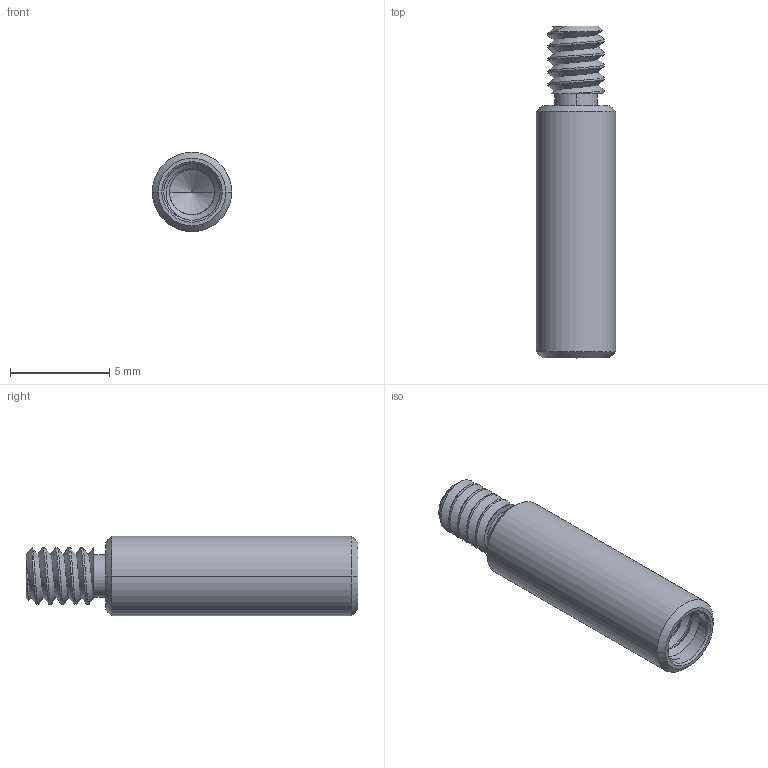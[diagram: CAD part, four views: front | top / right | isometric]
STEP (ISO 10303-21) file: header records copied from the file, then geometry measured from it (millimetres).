
FILE_DESCRIPTION((''),'2;1');
FILE_NAME('SR05','2022-11-15T',('daizh'),(''),'CREO PARAMETRIC BY PTC INC, 2018360','CREO PARAMETRIC BY PTC INC, 2018360','');
FILE_SCHEMA(('CONFIG_CONTROL_DESIGN'));
Length unit declared in the file: millimetre
Products named in the file (1): SR05
Bounding box: 4 x 16.7 x 4 mm (x, y, z)
Volume: 137.4 mm3; surface area: 302.6 mm2
Topology: 1 solids, 1 shells, 64 faces, 164 edges, 105 vertices
Faces by surface type: cylinder 35, bspline 14, cone 10, plane 5
Entity records: 4869 total; most frequent: CARTESIAN_POINT 3470, ORIENTED_EDGE 328, DIRECTION 202, EDGE_CURVE 164, VERTEX_POINT 105, B_SPLINE_CURVE_WITH_KNOTS 86, AXIS2_PLACEMENT_3D 74, EDGE_LOOP 67
